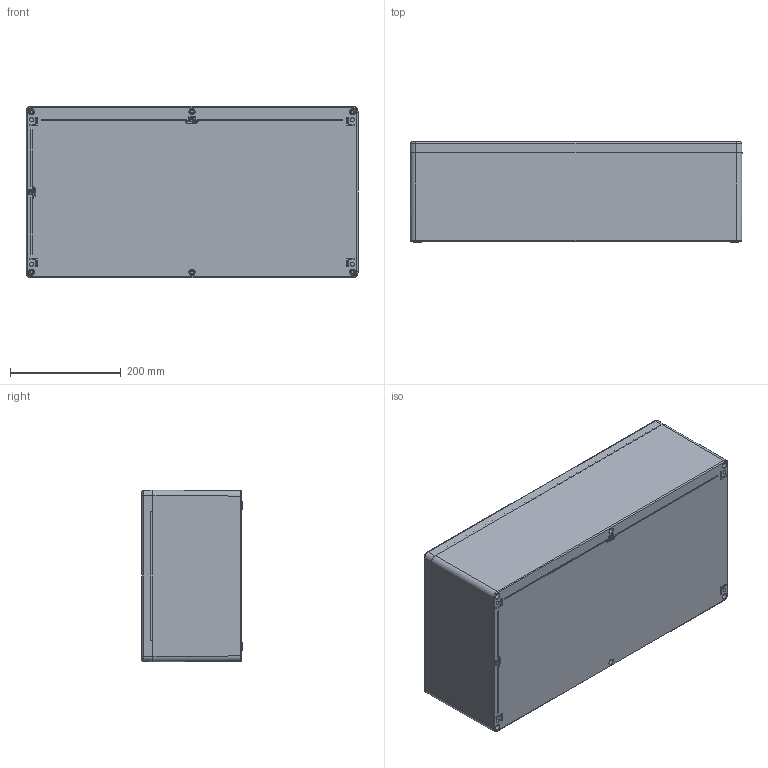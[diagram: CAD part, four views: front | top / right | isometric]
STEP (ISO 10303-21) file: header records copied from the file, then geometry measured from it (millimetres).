
FILE_DESCRIPTION((''),'2;1');
FILE_NAME('1480950000_ASM','2024-02-27T13:41:23',('Stephanie.Hoppe'),(''),'CREO PARAMETRIC BY PTC INC, 2022124','CREO PARAMETRIC BY PTC INC, 2022124','');
FILE_SCHEMA(('AUTOMOTIVE_DESIGN { 1 0 10303 214 1 1 1 1 }'));
Products named in the file (11): 9301026000_AF0; 9261018000; 9601392000_ASM; 9601621000_ASM; 9302025000_AF0; 9261116000; 9611154000_ASM; DICHTUNG_CA470_480; 9611366000_ASM; 9261021000; 1480950000_ASM
Assembly tree (18 placements, depth 4):
  1480950000_ASM
    9601621000_ASM
      9601392000_ASM
        9301026000_AF0
        9261018000  x4
    9611366000_ASM
      9611154000_ASM
        9302025000_AF0
        9261116000
      DICHTUNG_CA470_480
    9261021000  x6
Bounding box: 600 x 181 x 310 mm (x, y, z)
Volume: 3721780.8 mm3; surface area: 1483933.4 mm2
Topology: 20 solids, 44 shells, 2325 faces, 6386 edges, 4234 vertices
Faces by surface type: plane 1342, cylinder 437, cone 325, bspline 163, torus 58
Entity records: 110907 total; most frequent: CARTESIAN_POINT 29392, DIRECTION 9460, ORIENTED_EDGE 9350, PRESENTATION_STYLE_ASSIGNMENT 6848, STYLED_ITEM 6843, CURVE_STYLE 5311, EDGE_CURVE 4705, VECTOR 3567
